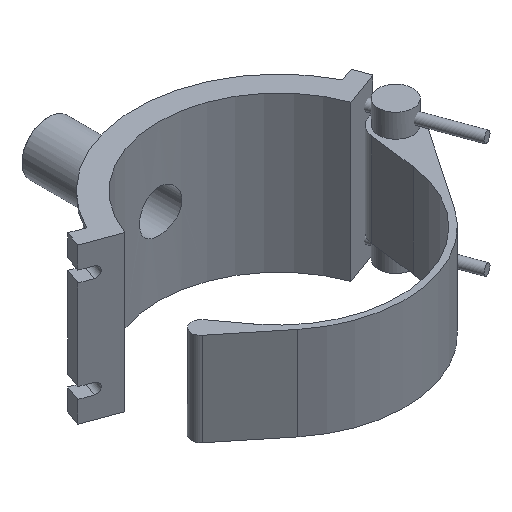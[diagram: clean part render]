
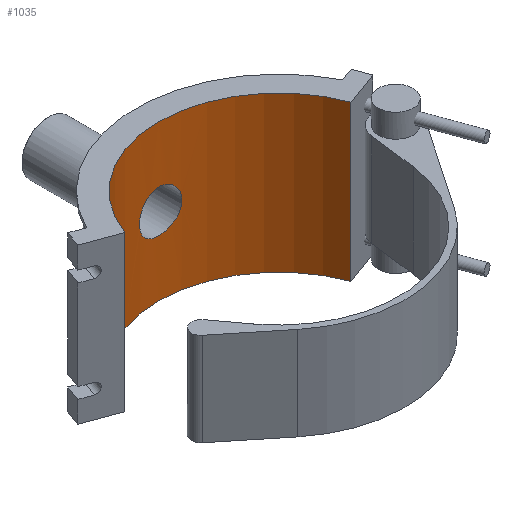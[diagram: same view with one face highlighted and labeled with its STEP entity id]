
A CAD part, isometric view. The second image highlights one B-rep face of the part: STEP entity #1035.
In plain terms, the highlighted cylindrical face has radius 136.35 mm (diameter 272.7 mm), a partial arc.
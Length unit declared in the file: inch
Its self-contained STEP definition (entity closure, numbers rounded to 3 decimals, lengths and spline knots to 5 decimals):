
#28=FACE_BOUND('',#177,.T.);
#45=B_SPLINE_CURVE_WITH_KNOTS('',3,(#1814,#1815,#1816,#1817,#1818,#1819,
#1820,#1821,#1822,#1823,#1824,#1825,#1826,#1827,#1828,#1829,#1830,#1831,
#1832,#1833,#1834,#1835,#1836,#1837,#1838,#1839,#1840,#1841,#1842,#1843,
#1844,#1845,#1846,#1847,#1848,#1849,#1850,#1851,#1852,#1853,#1854,#1855,
#1856,#1857,#1858,#1859,#1860,#1861,#1862,#1863,#1864,#1865,#1866,#1867,
#1868,#1869,#1870,#1871,#1872,#1873,#1874,#1875,#1876,#1877,#1878,#1879),
 .UNSPECIFIED.,.T.,.F.,(4,2,2,2,2,2,2,2,2,2,2,2,2,2,2,2,2,2,2,2,2,2,2,2,
2,2,2,2,2,2,2,2,4),(0.,0.45381,0.90761,1.36142,
1.81522,2.26902,2.72281,3.1766,3.63039,
4.08418,4.53797,4.99176,5.44555,5.89936,
6.35316,6.80697,7.26078,7.71458,8.16839,
8.62219,9.076,9.52979,9.98358,10.43737,
10.89116,11.34496,11.79875,12.25254,12.70633,
13.16013,13.61394,14.06775,14.52155),
 .UNSPECIFIED.);
#108=FACE_OUTER_BOUND('',#176,.T.);
#176=EDGE_LOOP('',(#818,#819,#820,#821));
#177=EDGE_LOOP('',(#822));
#274=LINE('',#1800,#354);
#277=LINE('',#1808,#357);
#354=VECTOR('',#1321,0.3937);
#357=VECTOR('',#1332,0.3937);
#399=CIRCLE('',#1119,5.36811);
#402=CIRCLE('',#1134,5.36811);
#479=VERTEX_POINT('',#1759);
#481=VERTEX_POINT('',#1763);
#491=VERTEX_POINT('',#1798);
#492=VERTEX_POINT('',#1807);
#493=VERTEX_POINT('',#1813);
#591=EDGE_CURVE('',#481,#479,#399,.T.);
#609=EDGE_CURVE('',#481,#491,#274,.T.);
#612=EDGE_CURVE('',#492,#479,#277,.T.);
#614=EDGE_CURVE('',#492,#491,#402,.T.);
#615=EDGE_CURVE('',#493,#493,#45,.T.);
#818=ORIENTED_EDGE('',*,*,#612,.T.);
#819=ORIENTED_EDGE('',*,*,#591,.F.);
#820=ORIENTED_EDGE('',*,*,#609,.T.);
#821=ORIENTED_EDGE('',*,*,#614,.F.);
#822=ORIENTED_EDGE('',*,*,#615,.T.);
#995=CYLINDRICAL_SURFACE('',#1135,5.36811);
#1035=ADVANCED_FACE('',(#108,#28),#995,.F.);
#1119=AXIS2_PLACEMENT_3D('',#1765,#1286,#1287);
#1134=AXIS2_PLACEMENT_3D('',#1811,#1336,#1337);
#1135=AXIS2_PLACEMENT_3D('',#1812,#1338,#1339);
#1286=DIRECTION('center_axis',(0.,0.,-1.));
#1287=DIRECTION('ref_axis',(-1.,0.,0.));
#1321=DIRECTION('',(0.,0.,-1.));
#1332=DIRECTION('',(0.,0.,1.));
#1336=DIRECTION('center_axis',(0.,0.,1.));
#1337=DIRECTION('ref_axis',(-1.,0.,0.));
#1338=DIRECTION('center_axis',(0.,0.,1.));
#1339=DIRECTION('ref_axis',(-1.,0.,0.));
#1759=CARTESIAN_POINT('',(5.04437,1.836,3.465));
#1763=CARTESIAN_POINT('',(-5.04437,1.836,3.465));
#1765=CARTESIAN_POINT('Origin',(0.,0.,3.465));
#1798=CARTESIAN_POINT('',(-5.04437,1.836,-3.465));
#1800=CARTESIAN_POINT('',(-5.04437,1.836,0.));
#1807=CARTESIAN_POINT('',(5.04437,1.836,-3.465));
#1808=CARTESIAN_POINT('',(5.04437,1.836,0.));
#1811=CARTESIAN_POINT('Origin',(0.,0.,-3.465));
#1812=CARTESIAN_POINT('Origin',(0.,0.,0.));
#1813=CARTESIAN_POINT('',(0.94646,5.28402,0.));
#1814=CARTESIAN_POINT('Ctrl Pts',(0.94646,5.28402,0.));
#1815=CARTESIAN_POINT('Ctrl Pts',(0.94646,5.28402,-0.05955));
#1816=CARTESIAN_POINT('Ctrl Pts',(0.94074,5.28505,-0.1211));
#1817=CARTESIAN_POINT('Ctrl Pts',(0.91673,5.28927,-0.24346));
#1818=CARTESIAN_POINT('Ctrl Pts',(0.89844,5.29245,-0.30426));
#1819=CARTESIAN_POINT('Ctrl Pts',(0.8501,5.30043,-0.42082));
#1820=CARTESIAN_POINT('Ctrl Pts',(0.82003,5.30522,-0.47666));
#1821=CARTESIAN_POINT('Ctrl Pts',(0.75057,5.31549,-0.5799));
#1822=CARTESIAN_POINT('Ctrl Pts',(0.71119,5.32096,-0.6273));
#1823=CARTESIAN_POINT('Ctrl Pts',(0.6273,5.3315,-0.71119));
#1824=CARTESIAN_POINT('Ctrl Pts',(0.57991,5.33695,-0.75057));
#1825=CARTESIAN_POINT('Ctrl Pts',(0.47666,5.34716,-0.82003));
#1826=CARTESIAN_POINT('Ctrl Pts',(0.42082,5.35191,-0.8501));
#1827=CARTESIAN_POINT('Ctrl Pts',(0.30426,5.3598,-0.89844));
#1828=CARTESIAN_POINT('Ctrl Pts',(0.24345,5.36294,-0.91673));
#1829=CARTESIAN_POINT('Ctrl Pts',(0.1211,5.36709,-0.94075));
#1830=CARTESIAN_POINT('Ctrl Pts',(0.05955,5.36811,-0.94646));
#1831=CARTESIAN_POINT('Ctrl Pts',(-0.05955,5.36811,
-0.94646));
#1832=CARTESIAN_POINT('Ctrl Pts',(-0.1211,5.36709,-0.94075));
#1833=CARTESIAN_POINT('Ctrl Pts',(-0.24345,5.36294,-0.91673));
#1834=CARTESIAN_POINT('Ctrl Pts',(-0.30426,5.3598,-0.89844));
#1835=CARTESIAN_POINT('Ctrl Pts',(-0.42082,5.35191,-0.8501));
#1836=CARTESIAN_POINT('Ctrl Pts',(-0.47666,5.34716,-0.82003));
#1837=CARTESIAN_POINT('Ctrl Pts',(-0.57991,5.33695,-0.75057));
#1838=CARTESIAN_POINT('Ctrl Pts',(-0.6273,5.3315,-0.71119));
#1839=CARTESIAN_POINT('Ctrl Pts',(-0.71119,5.32096,-0.6273));
#1840=CARTESIAN_POINT('Ctrl Pts',(-0.75057,5.31549,-0.5799));
#1841=CARTESIAN_POINT('Ctrl Pts',(-0.82003,5.30522,-0.47666));
#1842=CARTESIAN_POINT('Ctrl Pts',(-0.8501,5.30043,-0.42082));
#1843=CARTESIAN_POINT('Ctrl Pts',(-0.89844,5.29245,-0.30426));
#1844=CARTESIAN_POINT('Ctrl Pts',(-0.91673,5.28927,-0.24346));
#1845=CARTESIAN_POINT('Ctrl Pts',(-0.94074,5.28505,-0.1211));
#1846=CARTESIAN_POINT('Ctrl Pts',(-0.94646,5.28402,-0.05955));
#1847=CARTESIAN_POINT('Ctrl Pts',(-0.94646,5.28402,0.05955));
#1848=CARTESIAN_POINT('Ctrl Pts',(-0.94074,5.28505,0.1211));
#1849=CARTESIAN_POINT('Ctrl Pts',(-0.91673,5.28927,0.24346));
#1850=CARTESIAN_POINT('Ctrl Pts',(-0.89844,5.29245,0.30426));
#1851=CARTESIAN_POINT('Ctrl Pts',(-0.8501,5.30043,0.42082));
#1852=CARTESIAN_POINT('Ctrl Pts',(-0.82003,5.30522,0.47666));
#1853=CARTESIAN_POINT('Ctrl Pts',(-0.75057,5.31549,0.5799));
#1854=CARTESIAN_POINT('Ctrl Pts',(-0.71119,5.32096,0.6273));
#1855=CARTESIAN_POINT('Ctrl Pts',(-0.6273,5.3315,0.71119));
#1856=CARTESIAN_POINT('Ctrl Pts',(-0.57991,5.33695,0.75057));
#1857=CARTESIAN_POINT('Ctrl Pts',(-0.47666,5.34716,0.82003));
#1858=CARTESIAN_POINT('Ctrl Pts',(-0.42082,5.35191,0.8501));
#1859=CARTESIAN_POINT('Ctrl Pts',(-0.30426,5.3598,0.89844));
#1860=CARTESIAN_POINT('Ctrl Pts',(-0.24345,5.36294,0.91673));
#1861=CARTESIAN_POINT('Ctrl Pts',(-0.1211,5.36709,0.94075));
#1862=CARTESIAN_POINT('Ctrl Pts',(-0.05955,5.36811,
0.94646));
#1863=CARTESIAN_POINT('Ctrl Pts',(0.05955,5.36811,0.94646));
#1864=CARTESIAN_POINT('Ctrl Pts',(0.1211,5.36709,0.94075));
#1865=CARTESIAN_POINT('Ctrl Pts',(0.24345,5.36294,0.91673));
#1866=CARTESIAN_POINT('Ctrl Pts',(0.30426,5.3598,0.89844));
#1867=CARTESIAN_POINT('Ctrl Pts',(0.42082,5.35191,0.8501));
#1868=CARTESIAN_POINT('Ctrl Pts',(0.47666,5.34716,0.82003));
#1869=CARTESIAN_POINT('Ctrl Pts',(0.57991,5.33695,0.75057));
#1870=CARTESIAN_POINT('Ctrl Pts',(0.6273,5.3315,0.71119));
#1871=CARTESIAN_POINT('Ctrl Pts',(0.71119,5.32096,0.6273));
#1872=CARTESIAN_POINT('Ctrl Pts',(0.75057,5.31549,0.5799));
#1873=CARTESIAN_POINT('Ctrl Pts',(0.82003,5.30522,0.47666));
#1874=CARTESIAN_POINT('Ctrl Pts',(0.8501,5.30043,0.42082));
#1875=CARTESIAN_POINT('Ctrl Pts',(0.89844,5.29245,0.30426));
#1876=CARTESIAN_POINT('Ctrl Pts',(0.91673,5.28927,0.24346));
#1877=CARTESIAN_POINT('Ctrl Pts',(0.94074,5.28505,0.1211));
#1878=CARTESIAN_POINT('Ctrl Pts',(0.94646,5.28402,0.05955));
#1879=CARTESIAN_POINT('Ctrl Pts',(0.94646,5.28402,0.));
